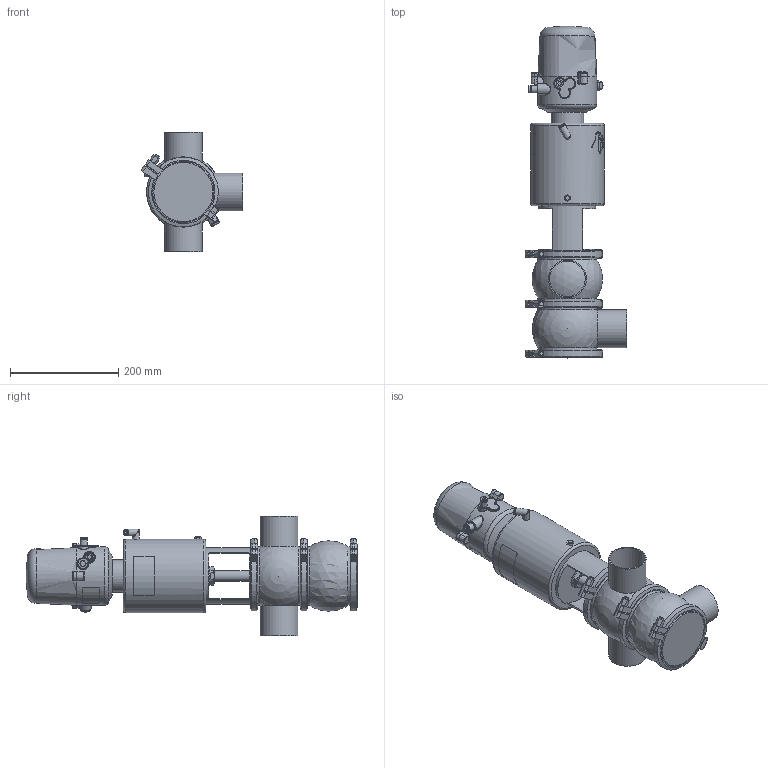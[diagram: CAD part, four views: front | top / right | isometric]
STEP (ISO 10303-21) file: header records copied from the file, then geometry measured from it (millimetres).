
FILE_DESCRIPTION (( 'STEP AP214' ), '1' );
FILE_NAME ('INNOVA M A W DIN 065 T3 AS NC & C-TOP S_10.241.16.0037.STEP', '2024-08-07T07:01:45', ( '' ), ( '' ), 'SwSTEP 2.0', 'SolidWorks 2023', '' );
FILE_SCHEMA (( 'AUTOMOTIVE_DESIGN' ));
Length unit declared in the file: millimetre
Products named in the file (9): 10.240.15.0001_DN 065; 10.240.15.0007_DIN 065; 10.240.15.0017_Estàndard; INNOVA M A W DIN 065 T3 AS NC & C-TOP S_10.241.16.0037; 10.426.15.0001_C-TOP S - 1 EV; 10.240.15.0006_DIN 065; 10.240.15.0010_DN 065; 10.241.15.0001_DIN 065; 10.240.15.0014_T3 AS P180
Assembly tree (10 placements, depth 2):
  INNOVA M A W DIN 065 T3 AS NC & C-TOP S_10.241.16.0037
    10.240.15.0007_DIN 065
    10.240.15.0006_DIN 065
    10.240.15.0010_DN 065
    10.240.15.0014_T3 AS P180
    10.240.15.0017_Estàndard
    10.426.15.0001_C-TOP S - 1 EV
    10.240.15.0001_DN 065  x3
    10.241.15.0001_DIN 065
Bounding box: 188.15 x 613.5 x 220 mm (x, y, z)
Volume: 6238149.6 mm3; surface area: 537480.4 mm2
Topology: 11 solids, 11 shells, 1241 faces, 3006 edges, 1998 vertices
Faces by surface type: plane 446, cylinder 379, cone 211, bspline 160, torus 36, sphere 9
Full cylindrical faces by diameter (mm): 0.371 x17, 0.512 x16, 0.658 x16, 0.795 x16, 0.94 x15, 1.098 x15, 1.241 x13, 1.382 x13, 1.523 x11, 1.669 x10, 2.201 x1, 4 x2, 5.5 x2, 6 x2, 6.15 x1, 8 x8, 8.5 x1, 10 x1, 10.5 x1, 11 x2, 12.5 x3, 13 x2, 13.5 x2, 16 x1, 17 x3, 20 x3, 20.5 x1, 22 x2, 31 x1, 34.5 x3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
Entity records: 58165 total; most frequent: CARTESIAN_POINT 27782, ORIENTED_EDGE 4522, DIRECTION 3685, EDGE_CURVE 2261, VERTEX_POINT 1612, EDGE_LOOP 1585, AXIS2_PLACEMENT_3D 1514, FACE_OUTER_BOUND 1342
